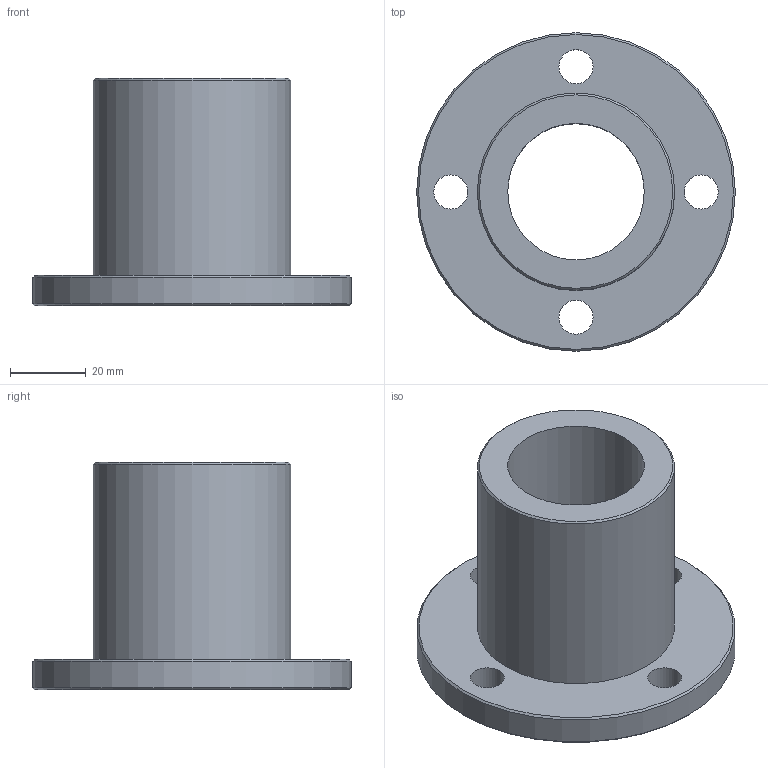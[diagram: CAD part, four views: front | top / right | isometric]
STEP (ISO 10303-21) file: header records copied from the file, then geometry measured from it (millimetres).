
FILE_DESCRIPTION(('STEP AP203'),'1');
FILE_NAME('//192.168.1.1/share/s-4 技術開発/s-4-4_CAD/s-4-4-3_見直し済み/018 修正済み/TMFON/TMFON_TOP/TMFON-36R.step','2022-02-08T05:35:13',(' '),(' '),'Spatial InterOp 3D',' ',' ');
FILE_SCHEMA(('CONFIG_CONTROL_DESIGN'));
Length unit declared in the file: millimetre
Products named in the file (1): 1
Bounding box: 84 x 84 x 60 mm (x, y, z)
Volume: 91573.1 mm3; surface area: 26632.1 mm2
Topology: 1 solids, 1 shells, 13 faces, 27 edges, 17 vertices
Faces by surface type: cylinder 7, plane 3, cone 3
Full cylindrical faces by diameter (mm): 9 x4, 36 x1, 52 x1, 84 x1
Entity records: 368 total; most frequent: DIRECTION 62, CARTESIAN_POINT 48, EDGE_LOOP 34, ORIENTED_EDGE 34, AXIS2_PLACEMENT_3D 31, FACE_OUTER_BOUND 20, EDGE_CURVE 17, VERTEX_POINT 17
